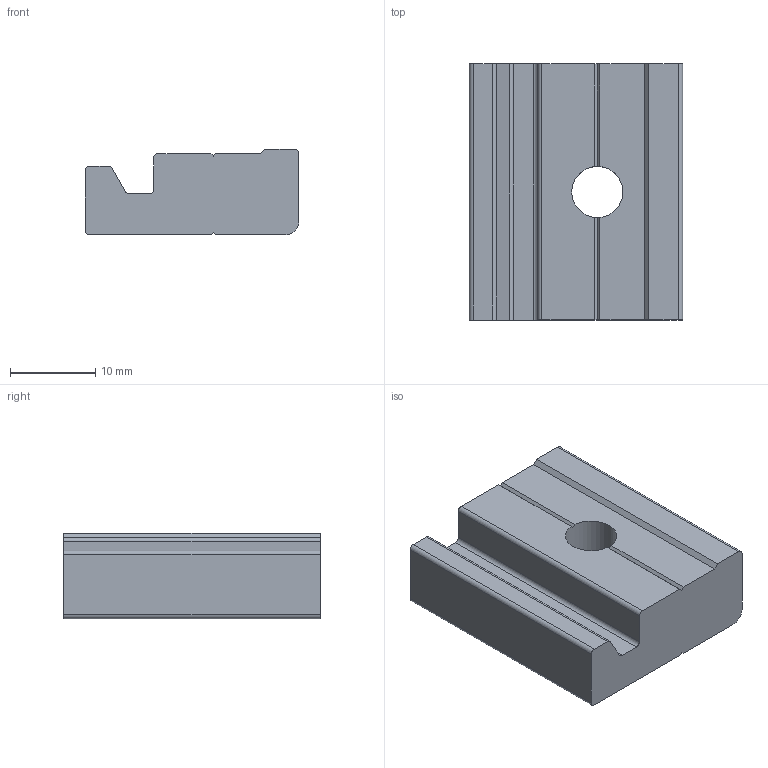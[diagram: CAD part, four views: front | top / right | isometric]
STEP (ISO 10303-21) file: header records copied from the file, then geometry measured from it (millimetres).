
FILE_DESCRIPTION(('STEP AP214'),'1');
FILE_NAME('SL3T-L30.stp','2017-07-27T08:44:55',(' '),(' '),'Spatial InterOp 3D',' ',' ');
FILE_SCHEMA(('automotive_design'));
Length unit declared in the file: millimetre
Products named in the file (1): SL3T-L30
Bounding box: 25 x 30 x 10 mm (x, y, z)
Volume: 6145.2 mm3; surface area: 2749.5 mm2
Topology: 1 solids, 1 shells, 31 faces, 91 edges, 60 vertices
Faces by surface type: plane 22, cylinder 9
Full cylindrical faces by diameter (mm): 6 x1
Entity records: 1300 total; most frequent: CARTESIAN_POINT 182, DIRECTION 182, ORIENTED_EDGE 180, EDGE_CURVE 90, LINE 62, VECTOR 62, AXIS2_PLACEMENT_3D 60, VERTEX_POINT 60
